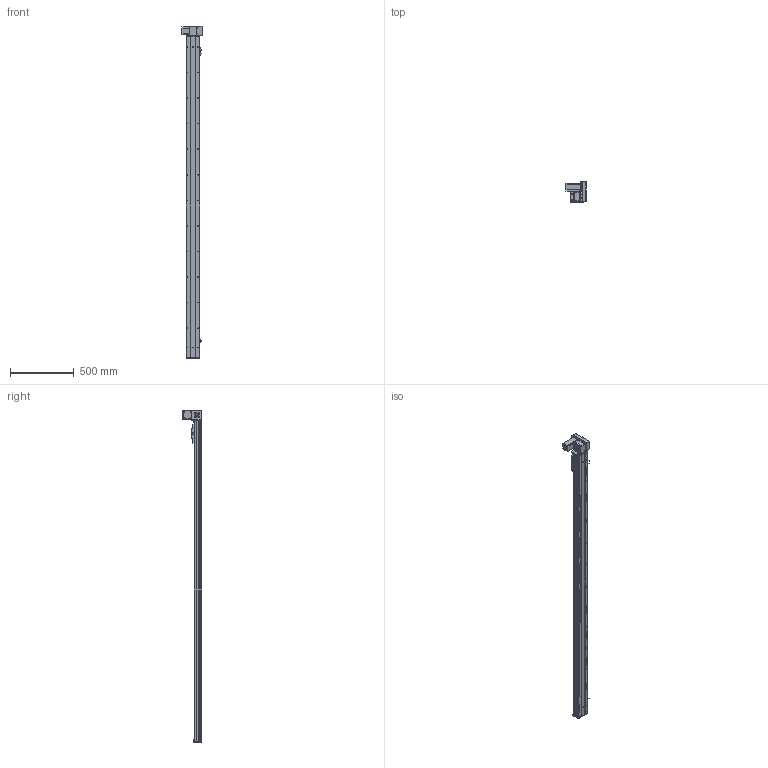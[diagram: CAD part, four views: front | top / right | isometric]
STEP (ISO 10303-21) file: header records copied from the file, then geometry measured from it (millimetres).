
FILE_DESCRIPTION (( 'STEP AP203' ), '1' );
FILE_NAME ('Y10CB-D90-S2250-UR-P400W.STEP', '2020-02-16T04:09:09', ( '微软用户' ), ( '微软中国' ), 'SwSTEP 2.0', 'SolidWorks 2017', '' );
FILE_SCHEMA (( 'CONFIG_CONTROL_DESIGN' ));
Length unit declared in the file: millimetre
Products named in the file (18): Y10B--々湍喘謫眊--666; 0B-埴倛裔啣; Y10B-耜蚾蟀諉啣----; 10CB-詩湍-; 00B-俋欶BM--; Y10CB- 掛极耜裔啣-毀---; 0CB-雄赽釱---; Y10CB-D90-S2250-UR-P400W; Y10C---詩湍揤啣; 0Cb-俋欶---; 10CB9-掛极; Y10B-々湍喘謫眊楊擘啣--; 10CB-耜裔; 0B-萇儂楊擘啣; Y135C-陔俋离換覜結え-; san松下电机400不带刹车----; Y100-135俋离換覜ん--; 0B-源倛裔啣
Assembly tree (21 placements, depth 2):
  Y10CB-D90-S2250-UR-P400W
    0CB-雄赽釱---
    0Cb-俋欶---
    Y10B-々湍喘謫眊楊擘啣--
    0B-萇儂楊擘啣
    san松下电机400不带刹车----
    0B-源倛裔啣
    0B-埴倛裔啣
    10CB-詩湍-
    Y10CB- 掛极耜裔啣-毀---  x2
    Y10C---詩湍揤啣  x2
    10CB9-掛极
    10CB-耜裔
    Y135C-陔俋离換覜結え-
    Y100-135俋离換覜ん--  x3
    Y10B--々湍喘謫眊--666
    Y10B-耜蚾蟀諉啣----
    00B-俋欶BM--
Bounding box: 157 x 155.5 x 2596 mm (x, y, z)
Volume: 5317189.4 mm3; surface area: 2511978.8 mm2
Topology: 21 solids, 21 shells, 1062 faces, 2883 edges, 1874 vertices
Faces by surface type: cylinder 549, plane 489, cone 24
Entity records: 33912 total; most frequent: CARTESIAN_POINT 6357, DIRECTION 5406, ORIENTED_EDGE 5236, EDGE_CURVE 2618, AXIS2_PLACEMENT_3D 1933, VERTEX_POINT 1700, LINE 1540, VECTOR 1540
